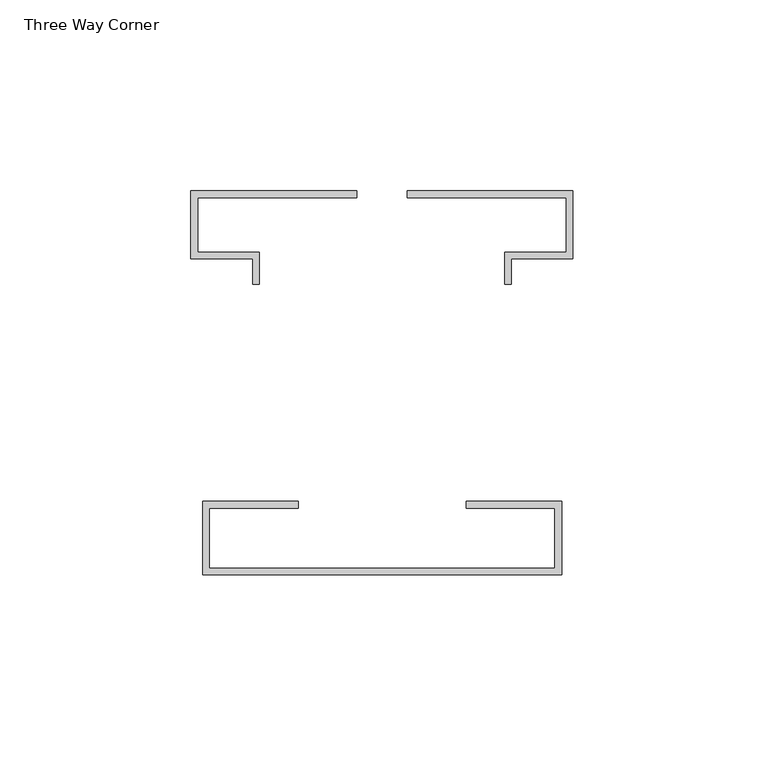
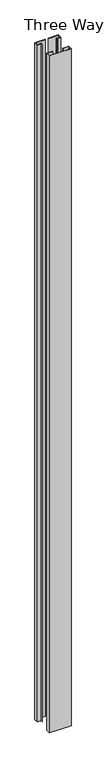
"""IFC4 building model written with IfcOpenShell, lengths in millimetres: proxy geometry, Connection-Corner-Teknion-OptosLP-Three_Way_FZCA3A_B : Three Way Corner."""

from ifc_helpers import new_model, si_unit, origin, origin_with_axes, place, context, project, spatial, polyline, outline, extrude, source, transform, mapped, element, save


def three_way_corner_fe799c1e(model_context):
    return source(origin(), model_context, "Body", "SweptSolid", [
        extrude(outline(polyline([(-47.005969, -50.00625), (-47.005969, -30.70225), (-22.0218, -30.70225), (-22.0218, -32.48025), (-45.212, -32.48025), (-45.212, -48.22825), (45.212, -48.22825), (45.212, -32.48025), (22.0218, -32.48025), (22.0218, -30.70225), (46.99, -30.70225), (46.99, -50.00625), (-47.005969, -50.00625)])), origin_with_axes(), (0.0, 0.0, 1.0), 3048.0),
        extrude(outline(polyline([(-50.0442755, 32.7349482), (-50.0442755, 50.5149482), (-6.6102755, 50.5149482), (-6.6102755, 48.7369482), (-48.2662755, 48.7369482), (-48.2662755, 34.5129482), (-32.1372755, 34.5129482), (-32.1372755, 26.1309482), (-33.9152755, 26.1309482), (-33.9152755, 32.7349482), (-50.0442755, 32.7349482)])), origin_with_axes(), (0.0, 0.0, 1.0), 3048.0),
        extrude(outline(polyline([(49.9557245, 50.5149482), (49.9557245, 32.7349482), (33.8267245, 32.7349482), (33.8267245, 26.1309482), (32.0487245, 26.1309482), (32.0487245, 34.5129482), (48.1777245, 34.5129482), (48.1777245, 48.7369482), (6.5217245, 48.7369482), (6.5217245, 50.5149482), (49.9557245, 50.5149482)])), origin_with_axes(), (0.0, 0.0, 1.0), 3048.0),
    ])


if __name__ == "__main__":
    model = new_model("IFC4")
    model_context = context("Model", 3, world=origin())
    ifc_project = project(units=[si_unit("LENGTHUNIT", "METRE", prefix="MILLI")], contexts=[model_context])
    site = spatial("IfcSite", under=ifc_project)
    building = spatial("IfcBuilding", under=site)
    placement = place(None, origin())
    three_way_corner_shape = three_way_corner_fe799c1e(model_context)
    element("IfcBuildingElementProxy", 1, Name="Connection-Corner-Teknion-OptosLP-Three_Way_FZCA3A_B : Three Way Corner", ObjectType="Connection-Corner-Teknion-OptosLP-Three_Way_FZCA3A_B : Three Way Corner", at=placement, inside=building, context=model_context, shape_type="MappedRepresentation", body=[
        mapped(three_way_corner_shape, transform((0.0, 0.0, 0.0), x_axis=(1.0, 0.0, 0.0), y_axis=(0.0, 1.0, 0.0), z_axis=(0.0, 0.0, 1.0))),
    ])
    save(model, "model.ifc")
